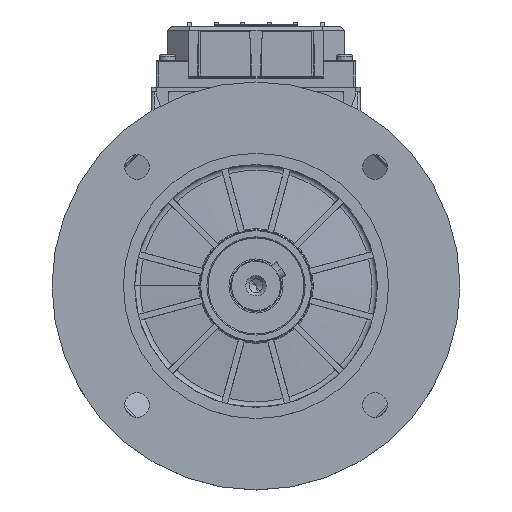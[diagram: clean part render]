
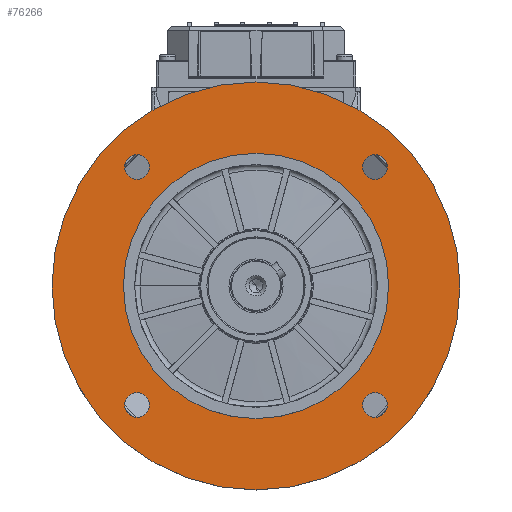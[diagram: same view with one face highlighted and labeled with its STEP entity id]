
A CAD part, top view. The second image highlights one B-rep face of the part: STEP entity #76266.
In plain terms, the highlighted planar face has unit normal (0, 0, 1) as drawn and (0, -1, 0) by its records, which use the part's own axes.
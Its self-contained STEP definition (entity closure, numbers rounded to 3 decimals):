
#56 = EDGE_CURVE ( 'NONE', #75482, #37976, #22762, .T. ) ;
#2506 = DIRECTION ( 'NONE',  ( 0., -1., 0. ) ) ;
#2609 = DIRECTION ( 'NONE',  ( 0., 0., -1. ) ) ;
#4902 = CARTESIAN_POINT ( 'NONE',  ( -58.336, 3.5, 52.336 ) ) ;
#5096 = ORIENTED_EDGE ( 'NONE', *, *, #56, .T. ) ;
#7283 = ORIENTED_EDGE ( 'NONE', *, *, #34158, .F. ) ;
#7510 = CARTESIAN_POINT ( 'NONE',  ( 0., 3.5, 0. ) ) ;
#7970 = CIRCLE ( 'NONE', #119185, 6. ) ;
#8722 = AXIS2_PLACEMENT_3D ( 'NONE', #24622, #105307, #36219 ) ;
#9477 = DIRECTION ( 'NONE',  ( 0., 1., 0. ) ) ;
#9832 = AXIS2_PLACEMENT_3D ( 'NONE', #121390, #52238, #133040 ) ;
#10438 = CIRCLE ( 'NONE', #93709, 6. ) ;
#11657 = VERTEX_POINT ( 'NONE', #12921 ) ;
#12025 = AXIS2_PLACEMENT_3D ( 'NONE', #140921, #71680, #2609 ) ;
#12921 = CARTESIAN_POINT ( 'NONE',  ( -58.336, 3.5, -52.336 ) ) ;
#15296 = CARTESIAN_POINT ( 'NONE',  ( 0., 3.5, 0. ) ) ;
#15564 = VERTEX_POINT ( 'NONE', #125095 ) ;
#17980 = VERTEX_POINT ( 'NONE', #21308 ) ;
#18256 = ORIENTED_EDGE ( 'NONE', *, *, #119221, .F. ) ;
#18702 = AXIS2_PLACEMENT_3D ( 'NONE', #7510, #88264, #19117 ) ;
#19117 = DIRECTION ( 'NONE',  ( 0., 0., 1. ) ) ;
#19533 = ORIENTED_EDGE ( 'NONE', *, *, #89057, .T. ) ;
#20102 = CARTESIAN_POINT ( 'NONE',  ( 0., 3.5, -100. ) ) ;
#21308 = CARTESIAN_POINT ( 'NONE',  ( -58.336, 3.5, 64.336 ) ) ;
#22579 = EDGE_LOOP ( 'NONE', ( #5096, #19533 ) ) ;
#22762 = CIRCLE ( 'NONE', #97877, 65. ) ;
#23114 = FACE_BOUND ( 'NONE', #134608, .T. ) ;
#24622 = CARTESIAN_POINT ( 'NONE',  ( -58.336, 3.5, -58.336 ) ) ;
#25806 = VERTEX_POINT ( 'NONE', #108022 ) ;
#26002 = AXIS2_PLACEMENT_3D ( 'NONE', #129886, #60671, #141528 ) ;
#26886 = DIRECTION ( 'NONE',  ( 0., 0., 1. ) ) ;
#27802 = EDGE_LOOP ( 'NONE', ( #81977, #107479 ) ) ;
#31416 = DIRECTION ( 'NONE',  ( 0., -1., 0. ) ) ;
#34158 = EDGE_CURVE ( 'NONE', #113708, #102898, #110835, .T. ) ;
#36219 = DIRECTION ( 'NONE',  ( 0., 0., -1. ) ) ;
#37329 = AXIS2_PLACEMENT_3D ( 'NONE', #71581, #2506, #83251 ) ;
#37976 = VERTEX_POINT ( 'NONE', #134482 ) ;
#40175 = CARTESIAN_POINT ( 'NONE',  ( -58.336, 3.5, 58.336 ) ) ;
#48552 = AXIS2_PLACEMENT_3D ( 'NONE', #100548, #31416, #112173 ) ;
#48896 = EDGE_CURVE ( 'NONE', #56072, #25806, #63505, .T. ) ;
#48914 = EDGE_LOOP ( 'NONE', ( #117873, #111406 ) ) ;
#49196 = CIRCLE ( 'NONE', #136791, 6. ) ;
#49606 = EDGE_LOOP ( 'NONE', ( #148302, #77116 ) ) ;
#50173 = FACE_OUTER_BOUND ( 'NONE', #60304, .T. ) ;
#50947 = AXIS2_PLACEMENT_3D ( 'NONE', #78615, #9477, #90241 ) ;
#51608 = CARTESIAN_POINT ( 'NONE',  ( 58.336, 3.5, -58.336 ) ) ;
#51735 = DIRECTION ( 'NONE',  ( 0., 0., -1. ) ) ;
#52238 = DIRECTION ( 'NONE',  ( 0., -1., 0. ) ) ;
#53780 = FACE_BOUND ( 'NONE', #48914, .T. ) ;
#56072 = VERTEX_POINT ( 'NONE', #20102 ) ;
#57595 = CARTESIAN_POINT ( 'NONE',  ( 0., 3.5, 0. ) ) ;
#60304 = EDGE_LOOP ( 'NONE', ( #114066, #62171 ) ) ;
#60671 = DIRECTION ( 'NONE',  ( 0., -1., 0. ) ) ;
#60933 = VERTEX_POINT ( 'NONE', #4902 ) ;
#62171 = ORIENTED_EDGE ( 'NONE', *, *, #48896, .F. ) ;
#62598 = EDGE_CURVE ( 'NONE', #25806, #56072, #112501, .T. ) ;
#63189 = DIRECTION ( 'NONE',  ( 0., 0., -1. ) ) ;
#63505 = CIRCLE ( 'NONE', #18702, 100. ) ;
#68925 = DIRECTION ( 'NONE',  ( 0., -1., 0. ) ) ;
#69217 = DIRECTION ( 'NONE',  ( 0., 0., 1. ) ) ;
#70212 = CARTESIAN_POINT ( 'NONE',  ( -58.336, 3.5, -64.336 ) ) ;
#70716 = CIRCLE ( 'NONE', #48552, 6. ) ;
#71581 = CARTESIAN_POINT ( 'NONE',  ( -58.336, 3.5, -58.336 ) ) ;
#71680 = DIRECTION ( 'NONE',  ( 0., -1., 0. ) ) ;
#74970 = PLANE ( 'NONE',  #9832 ) ;
#75482 = VERTEX_POINT ( 'NONE', #143157 ) ;
#76266 = ADVANCED_FACE ( 'NONE', ( #53780, #23114, #111577, #142350, #80919, #50173 ), #74970, .T. ) ;
#77116 = ORIENTED_EDGE ( 'NONE', *, *, #105546, .F. ) ;
#78615 = CARTESIAN_POINT ( 'NONE',  ( 0., 3.5, 0. ) ) ;
#79529 = EDGE_CURVE ( 'NONE', #60933, #17980, #82886, .T. ) ;
#80919 = FACE_BOUND ( 'NONE', #22579, .T. ) ;
#81977 = ORIENTED_EDGE ( 'NONE', *, *, #88739, .F. ) ;
#82886 = CIRCLE ( 'NONE', #12025, 6. ) ;
#83251 = DIRECTION ( 'NONE',  ( 0., 0., -1. ) ) ;
#86319 = EDGE_CURVE ( 'NONE', #145129, #15564, #70716, .T. ) ;
#87752 = CIRCLE ( 'NONE', #8722, 6. ) ;
#88264 = DIRECTION ( 'NONE',  ( 0., 1., 0. ) ) ;
#88739 = EDGE_CURVE ( 'NONE', #17980, #60933, #49196, .T. ) ;
#89057 = EDGE_CURVE ( 'NONE', #37976, #75482, #112334, .T. ) ;
#89407 = VERTEX_POINT ( 'NONE', #70212 ) ;
#90241 = DIRECTION ( 'NONE',  ( 0., 0., 1. ) ) ;
#93709 = AXIS2_PLACEMENT_3D ( 'NONE', #138140, #68925, #149762 ) ;
#95052 = EDGE_CURVE ( 'NONE', #11657, #89407, #87752, .T. ) ;
#96081 = DIRECTION ( 'NONE',  ( 0., 1., 0. ) ) ;
#97877 = AXIS2_PLACEMENT_3D ( 'NONE', #57595, #138420, #69217 ) ;
#100548 = CARTESIAN_POINT ( 'NONE',  ( 58.336, 3.5, -58.336 ) ) ;
#102898 = VERTEX_POINT ( 'NONE', #145588 ) ;
#105307 = DIRECTION ( 'NONE',  ( 0., -1., 0. ) ) ;
#105546 = EDGE_CURVE ( 'NONE', #89407, #11657, #135992, .T. ) ;
#107479 = ORIENTED_EDGE ( 'NONE', *, *, #79529, .F. ) ;
#108022 = CARTESIAN_POINT ( 'NONE',  ( 0., 3.5, 100. ) ) ;
#110835 = CIRCLE ( 'NONE', #26002, 6. ) ;
#111406 = ORIENTED_EDGE ( 'NONE', *, *, #149296, .F. ) ;
#111577 = FACE_BOUND ( 'NONE', #27802, .T. ) ;
#112044 = CARTESIAN_POINT ( 'NONE',  ( 58.336, 3.5, 64.336 ) ) ;
#112173 = DIRECTION ( 'NONE',  ( 0., 0., -1. ) ) ;
#112334 = CIRCLE ( 'NONE', #141660, 65. ) ;
#112501 = CIRCLE ( 'NONE', #50947, 100. ) ;
#113708 = VERTEX_POINT ( 'NONE', #112044 ) ;
#114066 = ORIENTED_EDGE ( 'NONE', *, *, #62598, .F. ) ;
#117873 = ORIENTED_EDGE ( 'NONE', *, *, #86319, .F. ) ;
#119185 = AXIS2_PLACEMENT_3D ( 'NONE', #51608, #132429, #63189 ) ;
#119221 = EDGE_CURVE ( 'NONE', #102898, #113708, #10438, .T. ) ;
#120884 = DIRECTION ( 'NONE',  ( 0., -1., 0. ) ) ;
#121390 = CARTESIAN_POINT ( 'NONE',  ( 0., 3.5, 65. ) ) ;
#125095 = CARTESIAN_POINT ( 'NONE',  ( 58.336, 3.5, -64.336 ) ) ;
#129886 = CARTESIAN_POINT ( 'NONE',  ( 58.336, 3.5, 58.336 ) ) ;
#132429 = DIRECTION ( 'NONE',  ( 0., -1., 0. ) ) ;
#133040 = DIRECTION ( 'NONE',  ( 0., 0., -1. ) ) ;
#134482 = CARTESIAN_POINT ( 'NONE',  ( 0., 3.5, -65. ) ) ;
#134608 = EDGE_LOOP ( 'NONE', ( #7283, #18256 ) ) ;
#135992 = CIRCLE ( 'NONE', #37329, 6. ) ;
#136791 = AXIS2_PLACEMENT_3D ( 'NONE', #40175, #120884, #51735 ) ;
#137845 = CARTESIAN_POINT ( 'NONE',  ( 58.336, 3.5, -52.336 ) ) ;
#138140 = CARTESIAN_POINT ( 'NONE',  ( 58.336, 3.5, 58.336 ) ) ;
#138420 = DIRECTION ( 'NONE',  ( 0., 1., 0. ) ) ;
#140921 = CARTESIAN_POINT ( 'NONE',  ( -58.336, 3.5, 58.336 ) ) ;
#141528 = DIRECTION ( 'NONE',  ( 0., 0., -1. ) ) ;
#141660 = AXIS2_PLACEMENT_3D ( 'NONE', #15296, #96081, #26886 ) ;
#142350 = FACE_BOUND ( 'NONE', #49606, .T. ) ;
#143157 = CARTESIAN_POINT ( 'NONE',  ( 0., 3.5, 65. ) ) ;
#145129 = VERTEX_POINT ( 'NONE', #137845 ) ;
#145588 = CARTESIAN_POINT ( 'NONE',  ( 58.336, 3.5, 52.336 ) ) ;
#148302 = ORIENTED_EDGE ( 'NONE', *, *, #95052, .F. ) ;
#149296 = EDGE_CURVE ( 'NONE', #15564, #145129, #7970, .T. ) ;
#149762 = DIRECTION ( 'NONE',  ( 0., 0., -1. ) ) ;
